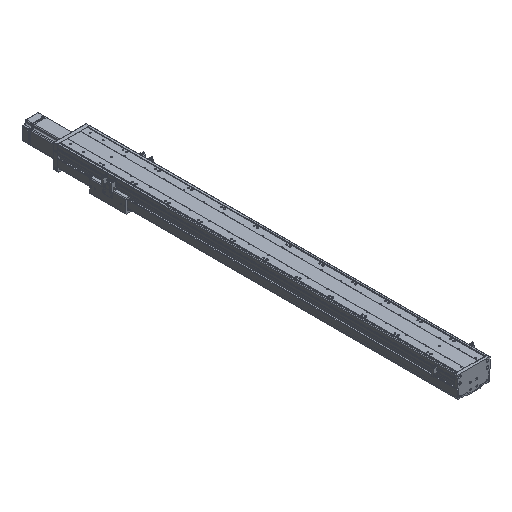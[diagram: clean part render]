
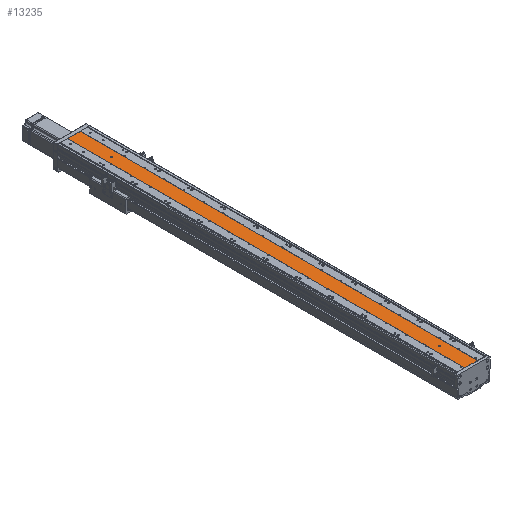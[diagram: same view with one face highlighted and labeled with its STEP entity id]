
A CAD part, isometric view. The second image highlights one B-rep face of the part: STEP entity #13235.
In plain terms, the highlighted planar face has unit normal (0, 0, 1).
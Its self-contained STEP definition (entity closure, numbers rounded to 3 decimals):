
#186 = EDGE_CURVE ( 'NONE', #7543, #35736, #18879, .T. ) ;
#900 = ORIENTED_EDGE ( 'NONE', *, *, #42724, .F. ) ;
#1983 = FACE_OUTER_BOUND ( 'NONE', #11696, .T. ) ;
#3127 = DIRECTION ( 'NONE',  ( 0., 0., -1. ) ) ;
#4095 = CARTESIAN_POINT ( 'NONE',  ( -10645.079, 1212., -17040.86 ) ) ;
#4463 = ORIENTED_EDGE ( 'NONE', *, *, #27373, .T. ) ;
#7543 = VERTEX_POINT ( 'NONE', #22593 ) ;
#8194 = DIRECTION ( 'NONE',  ( -1., 0., 0. ) ) ;
#9194 = CARTESIAN_POINT ( 'NONE',  ( -10645.079, 1212., -17040.86 ) ) ;
#9597 = DIRECTION ( 'NONE',  ( 1., 0., 0. ) ) ;
#10242 = AXIS2_PLACEMENT_3D ( 'NONE', #41434, #21957, #10481 ) ;
#10481 = DIRECTION ( 'NONE',  ( -1., 0., 0. ) ) ;
#10650 = DIRECTION ( 'NONE',  ( 0., -1., 0. ) ) ;
#10943 = DIRECTION ( 'NONE',  ( 0., -1., 0. ) ) ;
#11696 = EDGE_LOOP ( 'NONE', ( #24663, #29796, #900, #13128 ) ) ;
#11952 = VERTEX_POINT ( 'NONE', #22644 ) ;
#12365 = EDGE_LOOP ( 'NONE', ( #34030, #4463 ) ) ;
#12627 = VERTEX_POINT ( 'NONE', #26543 ) ;
#13128 = ORIENTED_EDGE ( 'NONE', *, *, #41876, .T. ) ;
#13235 = ADVANCED_FACE ( 'NONE', ( #48452, #40536, #1983 ), #49109, .F. ) ;
#13749 = LINE ( 'NONE', #4095, #14326 ) ;
#14326 = VECTOR ( 'NONE', #24762, 1000. ) ;
#14420 = CARTESIAN_POINT ( 'NONE',  ( -10607.079, 1212., -17040.86 ) ) ;
#14975 = VECTOR ( 'NONE', #10650, 1000. ) ;
#15102 = AXIS2_PLACEMENT_3D ( 'NONE', #21716, #48992, #29636 ) ;
#18738 = LINE ( 'NONE', #50036, #30406 ) ;
#18879 = CIRCLE ( 'NONE', #38854, 2.5 ) ;
#19256 = LINE ( 'NONE', #29162, #27235 ) ;
#19279 = CIRCLE ( 'NONE', #10242, 2.5 ) ;
#19471 = CIRCLE ( 'NONE', #46952, 2.5 ) ;
#21716 = CARTESIAN_POINT ( 'NONE',  ( -10626.079, 1097., -17040.86 ) ) ;
#21957 = DIRECTION ( 'NONE',  ( 0., 0., -1. ) ) ;
#22593 = CARTESIAN_POINT ( 'NONE',  ( -10623.579, 97., -17040.86 ) ) ;
#22639 = EDGE_CURVE ( 'NONE', #42984, #36424, #27885, .T. ) ;
#22644 = CARTESIAN_POINT ( 'NONE',  ( -10628.579, 1097., -17040.86 ) ) ;
#22968 = EDGE_CURVE ( 'NONE', #46495, #36424, #19256, .T. ) ;
#24663 = ORIENTED_EDGE ( 'NONE', *, *, #22968, .T. ) ;
#24762 = DIRECTION ( 'NONE',  ( 1., 0., 0. ) ) ;
#24886 = ORIENTED_EDGE ( 'NONE', *, *, #46923, .T. ) ;
#25438 = DIRECTION ( 'NONE',  ( -1., 0., 0. ) ) ;
#25758 = CARTESIAN_POINT ( 'NONE',  ( -10645.079, 1212., -17040.86 ) ) ;
#26543 = CARTESIAN_POINT ( 'NONE',  ( -10623.579, 1097., -17040.86 ) ) ;
#27235 = VECTOR ( 'NONE', #9597, 1000. ) ;
#27373 = EDGE_CURVE ( 'NONE', #35736, #7543, #19471, .T. ) ;
#27885 = LINE ( 'NONE', #14420, #14975 ) ;
#29162 = CARTESIAN_POINT ( 'NONE',  ( -10645.079, 0., -17040.86 ) ) ;
#29182 = VERTEX_POINT ( 'NONE', #9194 ) ;
#29495 = EDGE_LOOP ( 'NONE', ( #24886, #42768 ) ) ;
#29636 = DIRECTION ( 'NONE',  ( -1., 0., 0. ) ) ;
#29796 = ORIENTED_EDGE ( 'NONE', *, *, #22639, .F. ) ;
#29956 = EDGE_CURVE ( 'NONE', #11952, #12627, #19279, .T. ) ;
#30376 = DIRECTION ( 'NONE',  ( -1., 0., 0. ) ) ;
#30406 = VECTOR ( 'NONE', #10943, 1000. ) ;
#32135 = AXIS2_PLACEMENT_3D ( 'NONE', #25758, #49292, #25438 ) ;
#34030 = ORIENTED_EDGE ( 'NONE', *, *, #186, .T. ) ;
#34137 = CARTESIAN_POINT ( 'NONE',  ( -10607.079, 1212., -17040.86 ) ) ;
#34587 = CARTESIAN_POINT ( 'NONE',  ( -10645.079, 0., -17040.86 ) ) ;
#35680 = DIRECTION ( 'NONE',  ( 0., 0., -1. ) ) ;
#35736 = VERTEX_POINT ( 'NONE', #38468 ) ;
#36424 = VERTEX_POINT ( 'NONE', #48754 ) ;
#38468 = CARTESIAN_POINT ( 'NONE',  ( -10628.579, 97., -17040.86 ) ) ;
#38854 = AXIS2_PLACEMENT_3D ( 'NONE', #50520, #35680, #8194 ) ;
#40536 = FACE_BOUND ( 'NONE', #12365, .T. ) ;
#41434 = CARTESIAN_POINT ( 'NONE',  ( -10626.079, 1097., -17040.86 ) ) ;
#41876 = EDGE_CURVE ( 'NONE', #29182, #46495, #18738, .T. ) ;
#42046 = CIRCLE ( 'NONE', #15102, 2.5 ) ;
#42724 = EDGE_CURVE ( 'NONE', #29182, #42984, #13749, .T. ) ;
#42768 = ORIENTED_EDGE ( 'NONE', *, *, #29956, .T. ) ;
#42984 = VERTEX_POINT ( 'NONE', #34137 ) ;
#46495 = VERTEX_POINT ( 'NONE', #34587 ) ;
#46923 = EDGE_CURVE ( 'NONE', #12627, #11952, #42046, .T. ) ;
#46952 = AXIS2_PLACEMENT_3D ( 'NONE', #49925, #3127, #30376 ) ;
#48452 = FACE_BOUND ( 'NONE', #29495, .T. ) ;
#48754 = CARTESIAN_POINT ( 'NONE',  ( -10607.079, 0., -17040.86 ) ) ;
#48992 = DIRECTION ( 'NONE',  ( 0., 0., -1. ) ) ;
#49109 = PLANE ( 'NONE',  #32135 ) ;
#49292 = DIRECTION ( 'NONE',  ( 0., 0., -1. ) ) ;
#49925 = CARTESIAN_POINT ( 'NONE',  ( -10626.079, 97., -17040.86 ) ) ;
#50036 = CARTESIAN_POINT ( 'NONE',  ( -10645.079, 1212., -17040.86 ) ) ;
#50520 = CARTESIAN_POINT ( 'NONE',  ( -10626.079, 97., -17040.86 ) ) ;
